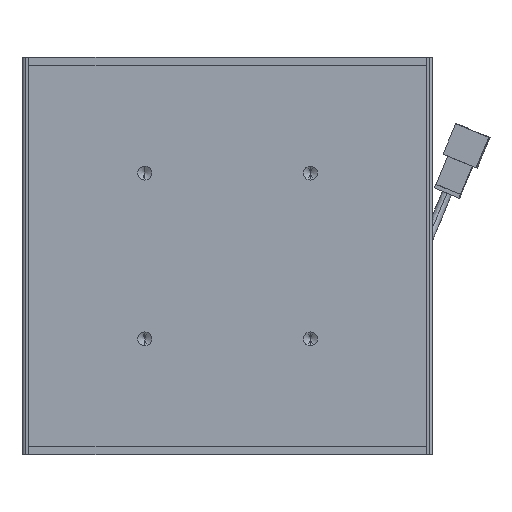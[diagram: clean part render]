
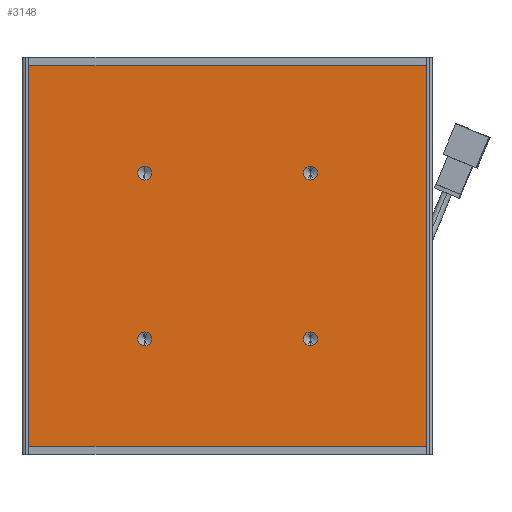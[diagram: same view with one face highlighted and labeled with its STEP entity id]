
A CAD part, left-side view. The second image highlights one B-rep face of the part: STEP entity #3148.
In plain terms, the highlighted planar face has unit normal (-1, 0, 0) as drawn and (0, 0, 1) by its records, which use the part's own axes.
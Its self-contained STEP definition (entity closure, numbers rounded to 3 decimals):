
#131 = VECTOR ( 'NONE', #4513, 1000. ) ;
#272 = DIRECTION ( 'NONE',  ( 1., 0., 0. ) ) ;
#379 = DIRECTION ( 'NONE',  ( 0., 0., 1. ) ) ;
#424 = DIRECTION ( 'NONE',  ( 1., 0., 0. ) ) ;
#717 = EDGE_CURVE ( 'NONE', #3032, #5004, #14635, .T. ) ;
#761 = CARTESIAN_POINT ( 'NONE',  ( 0., 119.8, 0. ) ) ;
#873 = DIRECTION ( 'NONE',  ( 0., 0., 1. ) ) ;
#1129 = ORIENTED_EDGE ( 'NONE', *, *, #17516, .F. ) ;
#1323 = VERTEX_POINT ( 'NONE', #2085 ) ;
#1620 = EDGE_CURVE ( 'NONE', #4719, #14364, #8773, .T. ) ;
#1825 = EDGE_LOOP ( 'NONE', ( #1129, #17030 ) ) ;
#2085 = CARTESIAN_POINT ( 'NONE',  ( 80.45, 34.9, 0. ) ) ;
#2746 = DIRECTION ( 'NONE',  ( 0., 1., 0. ) ) ;
#2796 = EDGE_LOOP ( 'NONE', ( #21424, #16348 ) ) ;
#3032 = VERTEX_POINT ( 'NONE', #18481 ) ;
#3070 = CARTESIAN_POINT ( 'NONE',  ( 115.1, 0., 0. ) ) ;
#3148 = ADVANCED_FACE ( 'NONE', ( #19987, #23736, #16814, #12454, #4071 ), #11435, .T. ) ;
#3748 = ORIENTED_EDGE ( 'NONE', *, *, #6199, .T. ) ;
#4071 = FACE_OUTER_BOUND ( 'NONE', #19142, .T. ) ;
#4244 = EDGE_CURVE ( 'NONE', #21416, #5147, #12706, .T. ) ;
#4385 = AXIS2_PLACEMENT_3D ( 'NONE', #18942, #7831, #13091 ) ;
#4513 = DIRECTION ( 'NONE',  ( -1., 0., 0. ) ) ;
#4530 = CARTESIAN_POINT ( 'NONE',  ( 115.1, 0., 0. ) ) ;
#4670 = DIRECTION ( 'NONE',  ( 0., 0., 1. ) ) ;
#4687 = CARTESIAN_POINT ( 'NONE',  ( 115.1, 119.8, 0. ) ) ;
#4719 = VERTEX_POINT ( 'NONE', #4687 ) ;
#4729 = AXIS2_PLACEMENT_3D ( 'NONE', #13945, #873, #9994 ) ;
#5004 = VERTEX_POINT ( 'NONE', #22285 ) ;
#5147 = VERTEX_POINT ( 'NONE', #9819 ) ;
#5459 = LINE ( 'NONE', #761, #11811 ) ;
#5621 = CARTESIAN_POINT ( 'NONE',  ( 0., 0., 0. ) ) ;
#5626 = CARTESIAN_POINT ( 'NONE',  ( 0., 0., 0. ) ) ;
#5772 = ORIENTED_EDGE ( 'NONE', *, *, #19952, .T. ) ;
#6199 = EDGE_CURVE ( 'NONE', #9015, #8303, #19093, .T. ) ;
#7389 = CARTESIAN_POINT ( 'NONE',  ( 32.55, 84.9, 0. ) ) ;
#7423 = DIRECTION ( 'NONE',  ( 1., 0., 0. ) ) ;
#7831 = DIRECTION ( 'NONE',  ( 0., 0., 1. ) ) ;
#8301 = CIRCLE ( 'NONE', #14873, 2.1 ) ;
#8303 = VERTEX_POINT ( 'NONE', #3070 ) ;
#8476 = VERTEX_POINT ( 'NONE', #10314 ) ;
#8773 = LINE ( 'NONE', #15590, #131 ) ;
#8778 = CARTESIAN_POINT ( 'NONE',  ( 82.55, 34.9, 0. ) ) ;
#8860 = DIRECTION ( 'NONE',  ( 0., 0., 1. ) ) ;
#8871 = CIRCLE ( 'NONE', #18133, 2.1 ) ;
#8954 = DIRECTION ( 'NONE',  ( 0., 0., 1. ) ) ;
#9015 = VERTEX_POINT ( 'NONE', #21228 ) ;
#9358 = CARTESIAN_POINT ( 'NONE',  ( 32.55, 34.9, 0. ) ) ;
#9641 = DIRECTION ( 'NONE',  ( 1., 0., 0. ) ) ;
#9819 = CARTESIAN_POINT ( 'NONE',  ( 34.65, 34.9, 0. ) ) ;
#9994 = DIRECTION ( 'NONE',  ( 1., 0., 0. ) ) ;
#10226 = EDGE_CURVE ( 'NONE', #20789, #1323, #23503, .T. ) ;
#10314 = CARTESIAN_POINT ( 'NONE',  ( 84.65, 84.9, 0. ) ) ;
#10987 = CARTESIAN_POINT ( 'NONE',  ( 82.55, 84.9, 0. ) ) ;
#11006 = CIRCLE ( 'NONE', #4729, 2.1 ) ;
#11435 = PLANE ( 'NONE',  #11850 ) ;
#11557 = VECTOR ( 'NONE', #12959, 1000. ) ;
#11811 = VECTOR ( 'NONE', #13679, 1000. ) ;
#11846 = VERTEX_POINT ( 'NONE', #23093 ) ;
#11850 = AXIS2_PLACEMENT_3D ( 'NONE', #5626, #379, #20517 ) ;
#11872 = ORIENTED_EDGE ( 'NONE', *, *, #22177, .T. ) ;
#12219 = ORIENTED_EDGE ( 'NONE', *, *, #1620, .T. ) ;
#12288 = ORIENTED_EDGE ( 'NONE', *, *, #17087, .F. ) ;
#12454 = FACE_BOUND ( 'NONE', #2796, .T. ) ;
#12706 = CIRCLE ( 'NONE', #16879, 2.1 ) ;
#12959 = DIRECTION ( 'NONE',  ( 1., 0., 0. ) ) ;
#13091 = DIRECTION ( 'NONE',  ( 1., 0., 0. ) ) ;
#13159 = AXIS2_PLACEMENT_3D ( 'NONE', #17018, #17103, #272 ) ;
#13679 = DIRECTION ( 'NONE',  ( 0., -1., 0. ) ) ;
#13833 = CIRCLE ( 'NONE', #15274, 2.1 ) ;
#13860 = ORIENTED_EDGE ( 'NONE', *, *, #717, .F. ) ;
#13945 = CARTESIAN_POINT ( 'NONE',  ( 82.55, 84.9, 0. ) ) ;
#14364 = VERTEX_POINT ( 'NONE', #23644 ) ;
#14442 = DIRECTION ( 'NONE',  ( 1., 0., 0. ) ) ;
#14627 = DIRECTION ( 'NONE',  ( 0., 0., 1. ) ) ;
#14635 = CIRCLE ( 'NONE', #4385, 2.1 ) ;
#14873 = AXIS2_PLACEMENT_3D ( 'NONE', #7389, #4670, #9641 ) ;
#15274 = AXIS2_PLACEMENT_3D ( 'NONE', #10987, #14627, #424 ) ;
#15590 = CARTESIAN_POINT ( 'NONE',  ( 115.1, 119.8, 0. ) ) ;
#16348 = ORIENTED_EDGE ( 'NONE', *, *, #4244, .F. ) ;
#16814 = FACE_BOUND ( 'NONE', #17129, .T. ) ;
#16879 = AXIS2_PLACEMENT_3D ( 'NONE', #9358, #22161, #7423 ) ;
#17018 = CARTESIAN_POINT ( 'NONE',  ( 82.55, 34.9, 0. ) ) ;
#17030 = ORIENTED_EDGE ( 'NONE', *, *, #18554, .F. ) ;
#17087 = EDGE_CURVE ( 'NONE', #1323, #20789, #17704, .T. ) ;
#17103 = DIRECTION ( 'NONE',  ( 0., 0., 1. ) ) ;
#17129 = EDGE_LOOP ( 'NONE', ( #21810, #12288 ) ) ;
#17516 = EDGE_CURVE ( 'NONE', #8476, #11846, #11006, .T. ) ;
#17704 = CIRCLE ( 'NONE', #22353, 2.1 ) ;
#18133 = AXIS2_PLACEMENT_3D ( 'NONE', #23695, #8954, #20058 ) ;
#18481 = CARTESIAN_POINT ( 'NONE',  ( 34.65, 84.9, 0. ) ) ;
#18548 = CARTESIAN_POINT ( 'NONE',  ( 84.65, 34.9, 0. ) ) ;
#18554 = EDGE_CURVE ( 'NONE', #11846, #8476, #13833, .T. ) ;
#18692 = LINE ( 'NONE', #4530, #21309 ) ;
#18738 = CARTESIAN_POINT ( 'NONE',  ( 30.45, 34.9, 0. ) ) ;
#18942 = CARTESIAN_POINT ( 'NONE',  ( 32.55, 84.9, 0. ) ) ;
#19093 = LINE ( 'NONE', #5621, #11557 ) ;
#19142 = EDGE_LOOP ( 'NONE', ( #11872, #3748, #5772, #12219 ) ) ;
#19952 = EDGE_CURVE ( 'NONE', #8303, #4719, #18692, .T. ) ;
#19987 = FACE_BOUND ( 'NONE', #20538, .T. ) ;
#20058 = DIRECTION ( 'NONE',  ( 1., 0., 0. ) ) ;
#20517 = DIRECTION ( 'NONE',  ( 1., 0., 0. ) ) ;
#20538 = EDGE_LOOP ( 'NONE', ( #13860, #22784 ) ) ;
#20789 = VERTEX_POINT ( 'NONE', #18548 ) ;
#21228 = CARTESIAN_POINT ( 'NONE',  ( 0., 0., 0. ) ) ;
#21309 = VECTOR ( 'NONE', #2746, 1000. ) ;
#21416 = VERTEX_POINT ( 'NONE', #18738 ) ;
#21424 = ORIENTED_EDGE ( 'NONE', *, *, #22462, .F. ) ;
#21810 = ORIENTED_EDGE ( 'NONE', *, *, #10226, .F. ) ;
#22161 = DIRECTION ( 'NONE',  ( 0., 0., 1. ) ) ;
#22177 = EDGE_CURVE ( 'NONE', #14364, #9015, #5459, .T. ) ;
#22285 = CARTESIAN_POINT ( 'NONE',  ( 30.45, 84.9, 0. ) ) ;
#22353 = AXIS2_PLACEMENT_3D ( 'NONE', #8778, #8860, #14442 ) ;
#22420 = EDGE_CURVE ( 'NONE', #5004, #3032, #8301, .T. ) ;
#22462 = EDGE_CURVE ( 'NONE', #5147, #21416, #8871, .T. ) ;
#22784 = ORIENTED_EDGE ( 'NONE', *, *, #22420, .F. ) ;
#23093 = CARTESIAN_POINT ( 'NONE',  ( 80.45, 84.9, 0. ) ) ;
#23503 = CIRCLE ( 'NONE', #13159, 2.1 ) ;
#23644 = CARTESIAN_POINT ( 'NONE',  ( 0., 119.8, 0. ) ) ;
#23695 = CARTESIAN_POINT ( 'NONE',  ( 32.55, 34.9, 0. ) ) ;
#23736 = FACE_BOUND ( 'NONE', #1825, .T. ) ;
